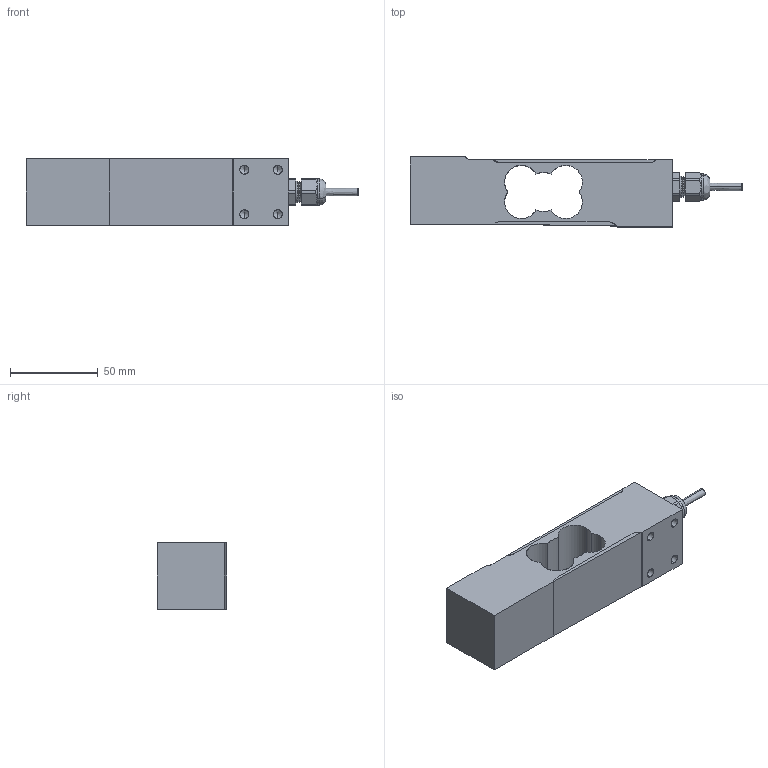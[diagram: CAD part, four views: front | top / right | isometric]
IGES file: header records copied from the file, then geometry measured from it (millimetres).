
Start section: SolidWorks IGES file using analytic representation for surfaces
Global section: file name: C:\0_Work\SolidWorks\0_Load Points\SP1 Series\HI SP1-200KG.IGS; native system: SolidWorks 2020; preprocessor: SolidWorks 2020; author: vach01; date: 230712.100112; units: millimetre
Bounding box: 189.45 x 39.9 x 38 mm (x, y, z)
Surface area: 48597.3 mm2 (no closed solid volume)
Topology: 0 solids, 0 shells, 215 faces, 1886 edges, 1868 vertices
Faces by surface type: revolution 167, bspline 48
